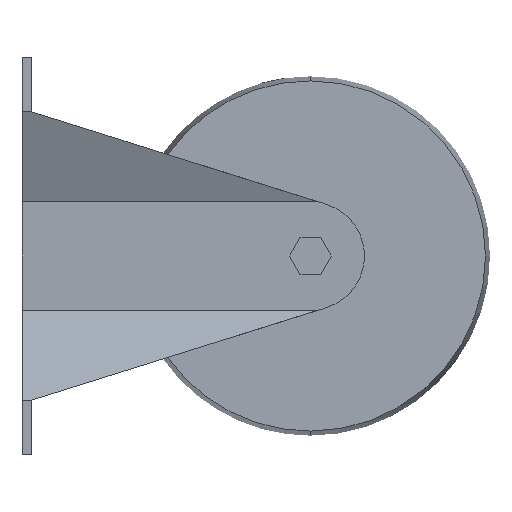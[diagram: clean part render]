
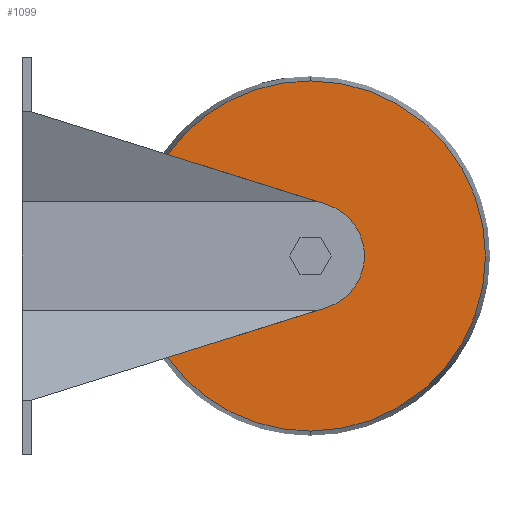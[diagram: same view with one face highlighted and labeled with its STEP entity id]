
A CAD part, left-side view. The second image highlights one B-rep face of the part: STEP entity #1099.
In plain terms, the highlighted planar face has unit normal (-1, 0, 0).
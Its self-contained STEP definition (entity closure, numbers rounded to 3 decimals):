
#29 = CARTESIAN_POINT ( 'NONE',  ( -14.5, -2.6, -40. ) ) ;
#39 = DIRECTION ( 'NONE',  ( -1., 0., 0. ) ) ;
#41 = AXIS2_PLACEMENT_3D ( 'NONE', #914, #1129, #1503 ) ;
#62 = LINE ( 'NONE', #29, #837 ) ;
#68 = CIRCLE ( 'NONE', #1041, 48.585 ) ;
#74 = CARTESIAN_POINT ( 'NONE',  ( -14.5, -40.397, 28.144 ) ) ;
#155 = DIRECTION ( 'NONE',  ( 0., -0.954, -0.299 ) ) ;
#216 = CARTESIAN_POINT ( 'NONE',  ( -14.5, -80., -48.585 ) ) ;
#221 = AXIS2_PLACEMENT_3D ( 'NONE', #1203, #39, #616 ) ;
#298 = CARTESIAN_POINT ( 'NONE',  ( -14.5, -84.49, 14.312 ) ) ;
#308 = CARTESIAN_POINT ( 'NONE',  ( -14.5, -80., 0. ) ) ;
#315 = EDGE_CURVE ( 'NONE', #968, #332, #338, .T. ) ;
#332 = VERTEX_POINT ( 'NONE', #613 ) ;
#338 = CIRCLE ( 'NONE', #41, 15. ) ;
#371 = ORIENTED_EDGE ( 'NONE', *, *, #1366, .T. ) ;
#389 = EDGE_LOOP ( 'NONE', ( #859, #893, #1146, #1143, #371, #481 ) ) ;
#436 = FACE_OUTER_BOUND ( 'NONE', #389, .T. ) ;
#481 = ORIENTED_EDGE ( 'NONE', *, *, #315, .T. ) ;
#501 = CARTESIAN_POINT ( 'NONE',  ( -14.5, -84.49, 14.312 ) ) ;
#529 = AXIS2_PLACEMENT_3D ( 'NONE', #308, #1196, #1395 ) ;
#548 = CIRCLE ( 'NONE', #221, 48.585 ) ;
#565 = LINE ( 'NONE', #501, #1078 ) ;
#585 = PLANE ( 'NONE',  #529 ) ;
#613 = CARTESIAN_POINT ( 'NONE',  ( -14.5, -84.49, -14.312 ) ) ;
#616 = DIRECTION ( 'NONE',  ( 0., 0., 1. ) ) ;
#725 = AXIS2_PLACEMENT_3D ( 'NONE', #1448, #1461, #828 ) ;
#735 = EDGE_CURVE ( 'NONE', #739, #1132, #68, .T. ) ;
#739 = VERTEX_POINT ( 'NONE', #1402 ) ;
#788 = EDGE_CURVE ( 'NONE', #1132, #1172, #548, .T. ) ;
#792 = CARTESIAN_POINT ( 'NONE',  ( -14.5, -80., 0. ) ) ;
#799 = EDGE_CURVE ( 'NONE', #332, #739, #62, .T. ) ;
#819 = DIRECTION ( 'NONE',  ( 0., 0.954, -0.299 ) ) ;
#828 = DIRECTION ( 'NONE',  ( 0., 0., 1. ) ) ;
#837 = VECTOR ( 'NONE', #819, 1000. ) ;
#859 = ORIENTED_EDGE ( 'NONE', *, *, #799, .T. ) ;
#893 = ORIENTED_EDGE ( 'NONE', *, *, #735, .T. ) ;
#914 = CARTESIAN_POINT ( 'NONE',  ( -14.5, -80., 0. ) ) ;
#916 = DIRECTION ( 'NONE',  ( -1., 0., 0. ) ) ;
#946 = VERTEX_POINT ( 'NONE', #74 ) ;
#968 = VERTEX_POINT ( 'NONE', #298 ) ;
#1023 = CIRCLE ( 'NONE', #725, 48.585 ) ;
#1041 = AXIS2_PLACEMENT_3D ( 'NONE', #792, #916, #1054 ) ;
#1054 = DIRECTION ( 'NONE',  ( 0., 0., 1. ) ) ;
#1078 = VECTOR ( 'NONE', #155, 1000. ) ;
#1099 = ADVANCED_FACE ( 'NONE', ( #436 ), #585, .F. ) ;
#1129 = DIRECTION ( 'NONE',  ( 1., 0., 0. ) ) ;
#1132 = VERTEX_POINT ( 'NONE', #216 ) ;
#1143 = ORIENTED_EDGE ( 'NONE', *, *, #1270, .T. ) ;
#1146 = ORIENTED_EDGE ( 'NONE', *, *, #788, .T. ) ;
#1172 = VERTEX_POINT ( 'NONE', #1363 ) ;
#1196 = DIRECTION ( 'NONE',  ( 1., 0., 0. ) ) ;
#1203 = CARTESIAN_POINT ( 'NONE',  ( -14.5, -80., 0. ) ) ;
#1270 = EDGE_CURVE ( 'NONE', #1172, #946, #1023, .T. ) ;
#1363 = CARTESIAN_POINT ( 'NONE',  ( -14.5, -80., 48.585 ) ) ;
#1366 = EDGE_CURVE ( 'NONE', #946, #968, #565, .T. ) ;
#1395 = DIRECTION ( 'NONE',  ( 0., 0., -1. ) ) ;
#1402 = CARTESIAN_POINT ( 'NONE',  ( -14.5, -40.397, -28.144 ) ) ;
#1448 = CARTESIAN_POINT ( 'NONE',  ( -14.5, -80., 0. ) ) ;
#1461 = DIRECTION ( 'NONE',  ( -1., 0., 0. ) ) ;
#1503 = DIRECTION ( 'NONE',  ( 0., 0., -1. ) ) ;
